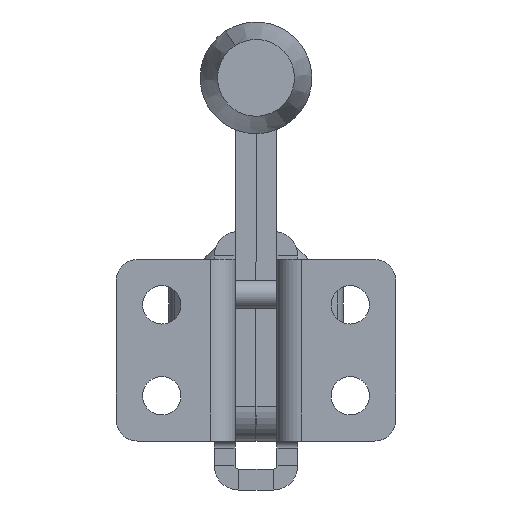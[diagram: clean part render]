
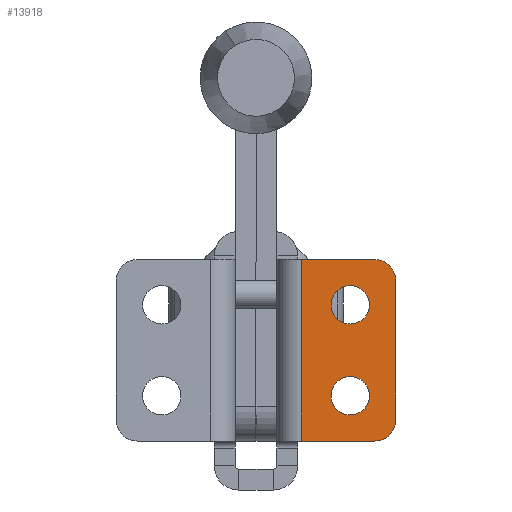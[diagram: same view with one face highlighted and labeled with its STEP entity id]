
A CAD part, front view. The second image highlights one B-rep face of the part: STEP entity #13918.
In plain terms, the highlighted planar face has unit normal (0, -1, 0).
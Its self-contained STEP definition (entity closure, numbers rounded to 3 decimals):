
#509 = DIRECTION ( 'NONE',  ( 0., -1., 0. ) ) ;
#559 = EDGE_CURVE ( 'NONE', #15314, #20676, #15413, .T. ) ;
#750 = CARTESIAN_POINT ( 'NONE',  ( 6.5, 0., 33. ) ) ;
#851 = AXIS2_PLACEMENT_3D ( 'NONE', #11152, #509, #12890 ) ;
#869 = FACE_OUTER_BOUND ( 'NONE', #19484, .T. ) ;
#905 = CARTESIAN_POINT ( 'NONE',  ( 17., 0., 10. ) ) ;
#1486 = PLANE ( 'NONE',  #5490 ) ;
#1614 = EDGE_CURVE ( 'NONE', #6251, #15621, #15658, .T. ) ;
#1715 = ORIENTED_EDGE ( 'NONE', *, *, #15262, .F. ) ;
#1980 = CIRCLE ( 'NONE', #21191, 3. ) ;
#2076 = VERTEX_POINT ( 'NONE', #20841 ) ;
#2380 = DIRECTION ( 'NONE',  ( 0., -1., 0. ) ) ;
#2406 = VERTEX_POINT ( 'NONE', #11248 ) ;
#2708 = DIRECTION ( 'NONE',  ( -1., 0., 0. ) ) ;
#2776 = VECTOR ( 'NONE', #19767, 1000. ) ;
#2827 = EDGE_CURVE ( 'NONE', #2076, #2406, #14214, .T. ) ;
#3003 = CARTESIAN_POINT ( 'NONE',  ( 20., 0., 30. ) ) ;
#3015 = VECTOR ( 'NONE', #9860, 1000. ) ;
#3198 = DIRECTION ( 'NONE',  ( 0., 0., 1. ) ) ;
#3289 = CARTESIAN_POINT ( 'NONE',  ( 0., 0., 0. ) ) ;
#3733 = ORIENTED_EDGE ( 'NONE', *, *, #559, .F. ) ;
#4171 = CARTESIAN_POINT ( 'NONE',  ( 13.5, 0., 26.5 ) ) ;
#5013 = CARTESIAN_POINT ( 'NONE',  ( 20., 0., 0. ) ) ;
#5129 = ORIENTED_EDGE ( 'NONE', *, *, #5576, .T. ) ;
#5357 = AXIS2_PLACEMENT_3D ( 'NONE', #12942, #2380, #14765 ) ;
#5490 = AXIS2_PLACEMENT_3D ( 'NONE', #3289, #17401, #6927 ) ;
#5576 = EDGE_CURVE ( 'NONE', #13241, #18623, #1980, .T. ) ;
#5591 = ORIENTED_EDGE ( 'NONE', *, *, #6823, .T. ) ;
#5639 = FACE_BOUND ( 'NONE', #9354, .T. ) ;
#5763 = VERTEX_POINT ( 'NONE', #9706 ) ;
#5770 = CARTESIAN_POINT ( 'NONE',  ( 17., 0., 30. ) ) ;
#5964 = DIRECTION ( 'NONE',  ( 1., 0., 0. ) ) ;
#6251 = VERTEX_POINT ( 'NONE', #12811 ) ;
#6480 = EDGE_LOOP ( 'NONE', ( #20130, #20076 ) ) ;
#6823 = EDGE_CURVE ( 'NONE', #15314, #11167, #16876, .T. ) ;
#6905 = EDGE_CURVE ( 'NONE', #15621, #6251, #20796, .T. ) ;
#6927 = DIRECTION ( 'NONE',  ( -1., 0., 0. ) ) ;
#7209 = DIRECTION ( 'NONE',  ( 0., -1., 0. ) ) ;
#7563 = DIRECTION ( 'NONE',  ( -1., 0., 0. ) ) ;
#7632 = CARTESIAN_POINT ( 'NONE',  ( 0., 0., 7. ) ) ;
#7825 = EDGE_CURVE ( 'NONE', #18623, #20676, #21019, .T. ) ;
#9354 = EDGE_LOOP ( 'NONE', ( #1715, #13530 ) ) ;
#9495 = ORIENTED_EDGE ( 'NONE', *, *, #14386, .T. ) ;
#9706 = CARTESIAN_POINT ( 'NONE',  ( 20., 0., 10. ) ) ;
#9816 = AXIS2_PLACEMENT_3D ( 'NONE', #4171, #16500, #5964 ) ;
#9840 = EDGE_CURVE ( 'NONE', #11167, #5763, #15145, .T. ) ;
#9860 = DIRECTION ( 'NONE',  ( -1., 0., 0. ) ) ;
#11152 = CARTESIAN_POINT ( 'NONE',  ( 13.5, 0., 13.5 ) ) ;
#11167 = VERTEX_POINT ( 'NONE', #13594 ) ;
#11225 = CARTESIAN_POINT ( 'NONE',  ( 6.5, 0., 7. ) ) ;
#11248 = CARTESIAN_POINT ( 'NONE',  ( 16.25, 0., 13.5 ) ) ;
#12432 = AXIS2_PLACEMENT_3D ( 'NONE', #905, #13281, #2708 ) ;
#12607 = ORIENTED_EDGE ( 'NONE', *, *, #9840, .T. ) ;
#12811 = CARTESIAN_POINT ( 'NONE',  ( 16.25, 0., 26.5 ) ) ;
#12890 = DIRECTION ( 'NONE',  ( 1., 0., 0. ) ) ;
#12942 = CARTESIAN_POINT ( 'NONE',  ( 13.5, 0., 26.5 ) ) ;
#13241 = VERTEX_POINT ( 'NONE', #3003 ) ;
#13281 = DIRECTION ( 'NONE',  ( 0., -1., 0. ) ) ;
#13530 = ORIENTED_EDGE ( 'NONE', *, *, #2827, .F. ) ;
#13594 = CARTESIAN_POINT ( 'NONE',  ( 17., 0., 7. ) ) ;
#13918 = ADVANCED_FACE ( 'NONE', ( #5639, #14430, #869 ), #1486, .F. ) ;
#14214 = CIRCLE ( 'NONE', #14978, 2.75 ) ;
#14386 = EDGE_CURVE ( 'NONE', #5763, #13241, #22157, .T. ) ;
#14430 = FACE_BOUND ( 'NONE', #6480, .T. ) ;
#14765 = DIRECTION ( 'NONE',  ( 1., 0., 0. ) ) ;
#14860 = VECTOR ( 'NONE', #16002, 1000. ) ;
#14978 = AXIS2_PLACEMENT_3D ( 'NONE', #17675, #7209, #19349 ) ;
#15145 = CIRCLE ( 'NONE', #12432, 3. ) ;
#15262 = EDGE_CURVE ( 'NONE', #2406, #2076, #17458, .T. ) ;
#15314 = VERTEX_POINT ( 'NONE', #11225 ) ;
#15413 = LINE ( 'NONE', #16032, #14860 ) ;
#15621 = VERTEX_POINT ( 'NONE', #20794 ) ;
#15658 = CIRCLE ( 'NONE', #5357, 2.75 ) ;
#16002 = DIRECTION ( 'NONE',  ( 0., 0., 1. ) ) ;
#16032 = CARTESIAN_POINT ( 'NONE',  ( 6.5, 0., 33. ) ) ;
#16500 = DIRECTION ( 'NONE',  ( 0., -1., 0. ) ) ;
#16876 = LINE ( 'NONE', #7632, #2776 ) ;
#17182 = VECTOR ( 'NONE', #3198, 1000. ) ;
#17401 = DIRECTION ( 'NONE',  ( 0., 1., 0. ) ) ;
#17458 = CIRCLE ( 'NONE', #851, 2.75 ) ;
#17675 = CARTESIAN_POINT ( 'NONE',  ( 13.5, 0., 13.5 ) ) ;
#18011 = DIRECTION ( 'NONE',  ( 0., -1., 0. ) ) ;
#18623 = VERTEX_POINT ( 'NONE', #20413 ) ;
#19349 = DIRECTION ( 'NONE',  ( 1., 0., 0. ) ) ;
#19484 = EDGE_LOOP ( 'NONE', ( #5591, #12607, #9495, #5129, #20808, #3733 ) ) ;
#19767 = DIRECTION ( 'NONE',  ( 1., 0., 0. ) ) ;
#20076 = ORIENTED_EDGE ( 'NONE', *, *, #6905, .F. ) ;
#20130 = ORIENTED_EDGE ( 'NONE', *, *, #1614, .F. ) ;
#20413 = CARTESIAN_POINT ( 'NONE',  ( 17., 0., 33. ) ) ;
#20676 = VERTEX_POINT ( 'NONE', #750 ) ;
#20794 = CARTESIAN_POINT ( 'NONE',  ( 10.75, 0., 26.5 ) ) ;
#20796 = CIRCLE ( 'NONE', #9816, 2.75 ) ;
#20808 = ORIENTED_EDGE ( 'NONE', *, *, #7825, .T. ) ;
#20841 = CARTESIAN_POINT ( 'NONE',  ( 10.75, 0., 13.5 ) ) ;
#21019 = LINE ( 'NONE', #21896, #3015 ) ;
#21191 = AXIS2_PLACEMENT_3D ( 'NONE', #5770, #18011, #7563 ) ;
#21896 = CARTESIAN_POINT ( 'NONE',  ( 0., 0., 33. ) ) ;
#22157 = LINE ( 'NONE', #5013, #17182 ) ;
